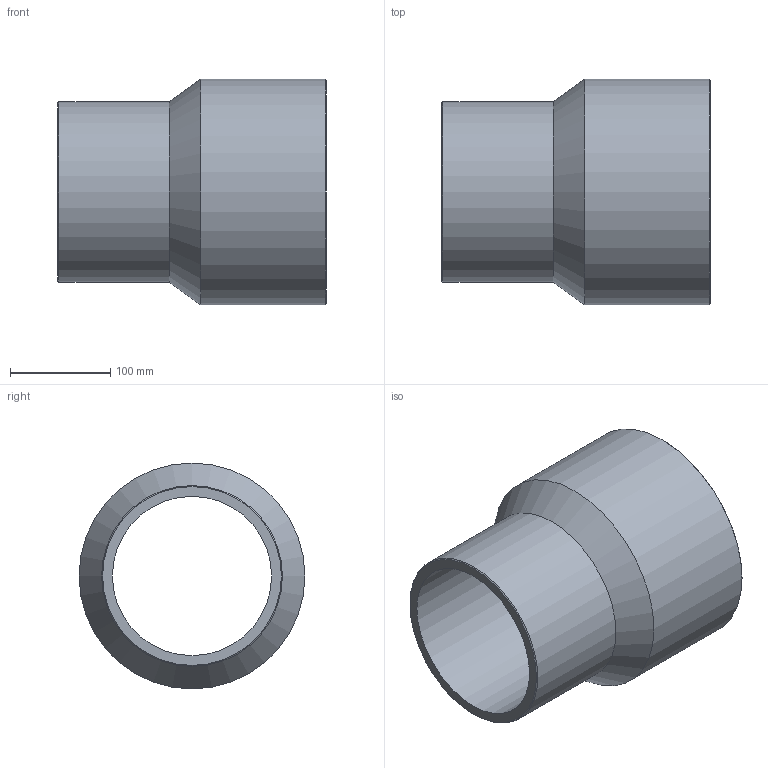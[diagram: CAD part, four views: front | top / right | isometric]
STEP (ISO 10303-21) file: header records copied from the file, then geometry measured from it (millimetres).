
FILE_DESCRIPTION(/* description */ ('Unknown'),/* implementation_level */ '2;1');
FILE_NAME(/* name */ 'RP225180B',/* time_stamp */ '2021-09-17T11:55:51+02:00',/* author */ ('Unknown'),/* organization */ ('Unknown'),/* preprocessor_version */ 'ST-DEVELOPER v16.7',/* originating_system */ 'Solid Edge',/* authorisation */ 'Unknown');
FILE_SCHEMA (('AUTOMOTIVE_DESIGN {1 0 10303 214 3 1 1}'));
Length unit declared in the file: millimetre
Products named in the file (1): RP225180B
Bounding box: 267 x 225 x 225 mm (x, y, z)
Volume: 2042951.2 mm3; surface area: 341646.9 mm2
Topology: 1 solids, 1 shells, 10 faces, 19 edges, 11 vertices
Faces by surface type: cylinder 4, cone 4, plane 2
Full cylindrical faces by diameter (mm): 158.6 x1, 180 x1, 198.2 x1, 225 x1
Entity records: 238 total; most frequent: DIRECTION 42, CARTESIAN_POINT 31, AXIS2_PLACEMENT_3D 21, ORIENTED_EDGE 20, EDGE_LOOP 20, FACE_BOUND 20, EDGE_CURVE 10, VERTEX_POINT 10
